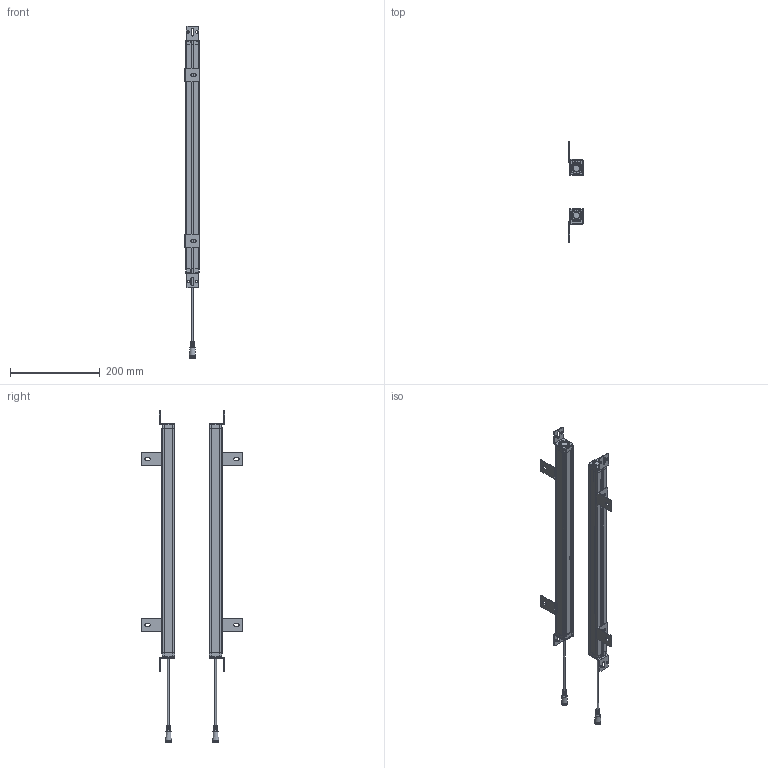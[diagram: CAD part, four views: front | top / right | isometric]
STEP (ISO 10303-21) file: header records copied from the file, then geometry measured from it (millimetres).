
FILE_DESCRIPTION(/* description */ (''),/* implementation_level */ '2;1');
FILE_NAME(/* name */ '5010（29x30）.stp',/* time_stamp */ '2023-05-04T18:28:29+08:00',/* author */ (''),/* organization */ (''),/* preprocessor_version */ 'ST-DEVELOPER v16.7',/* originating_system */ 'SIEMENS PLM Software NX 12.0',/* authorisation */ '');
FILE_SCHEMA (('AUTOMOTIVE_DESIGN { 1 0 10303 214 3 1 1 1 }'));
Products named in the file (1): 4810（29x30）_stp
Bounding box: 32.03 x 223.99 x 741 mm (x, y, z)
Volume: 349641.2 mm3; surface area: 363571.8 mm2
Topology: 34 solids, 34 shells, 1610 faces, 4267 edges, 2771 vertices
Faces by surface type: plane 750, cylinder 648, bspline 88, sphere 36, cone 36, torus 32, extrusion 20
Full cylindrical faces by diameter (mm): 1.533 x6, 4.4 x4, 9 x2, 12.5 x2
Entity records: 56427 total; most frequent: CARTESIAN_POINT 16064, DIRECTION 8330, ORIENTED_EDGE 8324, EDGE_CURVE 4162, AXIS2_PLACEMENT_3D 2918, VERTEX_POINT 2696, VECTOR 2494, LINE 2474
